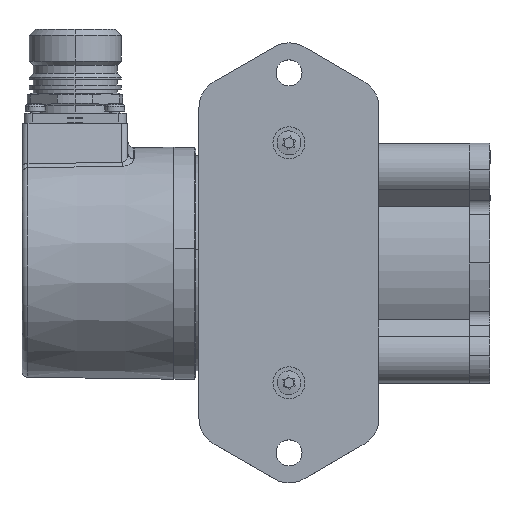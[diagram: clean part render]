
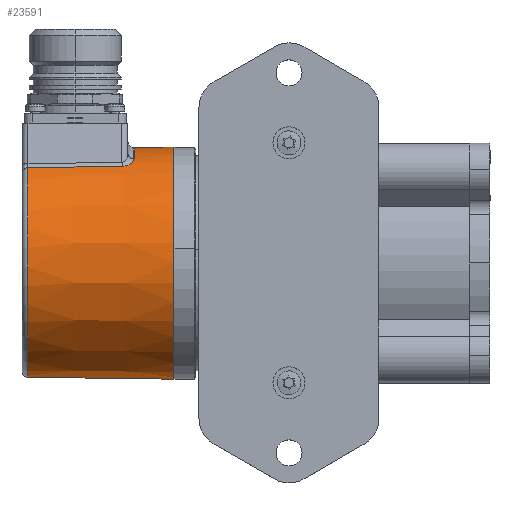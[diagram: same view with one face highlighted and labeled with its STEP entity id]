
A CAD part, top view. The second image highlights one B-rep face of the part: STEP entity #23591.
In plain terms, the highlighted conical face has half-angle 0.75 degrees and reference radius 29 mm.
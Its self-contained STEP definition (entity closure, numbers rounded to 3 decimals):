
#22619 = VERTEX_POINT ( 'NONE', #53542 ) ;
#22621 = EDGE_CURVE ( 'NONE', #22622, #22619, #53541, .T. ) ;
#22622 = VERTEX_POINT ( 'NONE', #53536 ) ;
#23029 = VERTEX_POINT ( 'NONE', #54929 ) ;
#23080 = EDGE_CURVE ( 'NONE', #23082, #23029, #55117, .T. ) ;
#23082 = VERTEX_POINT ( 'NONE', #55112 ) ;
#23154 = VERTEX_POINT ( 'NONE', #55377 ) ;
#23205 = EDGE_CURVE ( 'NONE', #22622, #23154, #55565, .T. ) ;
#23208 = VERTEX_POINT ( 'NONE', #55556 ) ;
#23211 = EDGE_CURVE ( 'NONE', #23029, #23208, #55555, .T. ) ;
#23532 = EDGE_CURVE ( 'NONE', #23208, #23154, #57659, .T. ) ;
#23591 = ADVANCED_FACE ( 'NONE', ( #58009 ), #57972, .T. ) ;
#23592 = EDGE_LOOP ( 'NONE', ( #23593, #23594, #23595, #23598, #23600, #23601, #23602 ) ) ;
#23593 = ORIENTED_EDGE ( 'NONE', *, *, #23205, .F. ) ;
#23594 = ORIENTED_EDGE ( 'NONE', *, *, #22621, .T. ) ;
#23595 = ORIENTED_EDGE ( 'NONE', *, *, #23596, .F. ) ;
#23596 = EDGE_CURVE ( 'NONE', #23597, #22619, #58073, .T. ) ;
#23597 = VERTEX_POINT ( 'NONE', #58072 ) ;
#23598 = ORIENTED_EDGE ( 'NONE', *, *, #23599, .T. ) ;
#23599 = EDGE_CURVE ( 'NONE', #23597, #23082, #58068, .T. ) ;
#23600 = ORIENTED_EDGE ( 'NONE', *, *, #23080, .T. ) ;
#23601 = ORIENTED_EDGE ( 'NONE', *, *, #23211, .T. ) ;
#23602 = ORIENTED_EDGE ( 'NONE', *, *, #23532, .T. ) ;
#53536 = CARTESIAN_POINT ( 'NONE',  ( -50.98, 28.869, 0. ) ) ;
#53537 = DIRECTION ( 'NONE',  ( 0., 1., 0. ) ) ;
#53538 = DIRECTION ( 'NONE',  ( 1., 0., 0. ) ) ;
#53539 = CARTESIAN_POINT ( 'NONE',  ( -50.98, 0., 0. ) ) ;
#53540 = AXIS2_PLACEMENT_3D ( 'NONE', #53539, #53538, #53537 ) ;
#53541 = CIRCLE ( 'NONE', #53540, 28.869 ) ;
#53542 = CARTESIAN_POINT ( 'NONE',  ( -50.98, 26.062, 12.419 ) ) ;
#54929 = CARTESIAN_POINT ( 'NONE',  ( -77.52, -28.522, 0. ) ) ;
#55112 = CARTESIAN_POINT ( 'NONE',  ( -77.52, 23.812, 15.699 ) ) ;
#55113 = DIRECTION ( 'NONE',  ( 0., 1., 0. ) ) ;
#55114 = DIRECTION ( 'NONE',  ( 1., 0., 0. ) ) ;
#55115 = CARTESIAN_POINT ( 'NONE',  ( -77.52, 0., 0. ) ) ;
#55116 = AXIS2_PLACEMENT_3D ( 'NONE', #55115, #55114, #55113 ) ;
#55117 = CIRCLE ( 'NONE', #55116, 28.522 ) ;
#55377 = CARTESIAN_POINT ( 'NONE',  ( -41., 29., 0. ) ) ;
#55555 = LINE ( 'NONE', #55607, #55606 ) ;
#55556 = CARTESIAN_POINT ( 'NONE',  ( -41., -29., 0. ) ) ;
#55562 = DIRECTION ( 'NONE',  ( 1., 0.013, 0. ) ) ;
#55563 = VECTOR ( 'NONE', #55562, 1000. ) ;
#55564 = CARTESIAN_POINT ( 'NONE',  ( -41., 29., 0. ) ) ;
#55565 = LINE ( 'NONE', #55564, #55563 ) ;
#55605 = DIRECTION ( 'NONE',  ( 1., -0.013, 0. ) ) ;
#55606 = VECTOR ( 'NONE', #55605, 1000. ) ;
#55607 = CARTESIAN_POINT ( 'NONE',  ( -41., -29., 0. ) ) ;
#57658 = AXIS2_PLACEMENT_3D ( 'NONE', #57773, #57770, #57768 ) ;
#57659 = CIRCLE ( 'NONE', #57658, 29. ) ;
#57768 = DIRECTION ( 'NONE',  ( 0., 1., 0. ) ) ;
#57770 = DIRECTION ( 'NONE',  ( -1., 0., 0. ) ) ;
#57773 = CARTESIAN_POINT ( 'NONE',  ( -41., 0., 0. ) ) ;
#57972 = CONICAL_SURFACE ( 'NONE', #58078, 29., 0.013 ) ;
#58009 = FACE_OUTER_BOUND ( 'NONE', #23592, .T. ) ;
#58026 = CARTESIAN_POINT ( 'NONE',  ( -55.98, 24.186, 15.643 ) ) ;
#58027 = CARTESIAN_POINT ( 'NONE',  ( -54.98, 24.203, 15.641 ) ) ;
#58028 = CARTESIAN_POINT ( 'NONE',  ( -53.98, 24.22, 15.638 ) ) ;
#58036 = CARTESIAN_POINT ( 'NONE',  ( -50.98, 26.062, 12.419 ) ) ;
#58038 = CARTESIAN_POINT ( 'NONE',  ( -50.98, 25.872, 12.818 ) ) ;
#58041 = CARTESIAN_POINT ( 'NONE',  ( -51.049, 25.677, 13.2 ) ) ;
#58043 = CARTESIAN_POINT ( 'NONE',  ( -51.25, 25.38, 13.753 ) ) ;
#58045 = CARTESIAN_POINT ( 'NONE',  ( -51.334, 25.281, 13.931 ) ) ;
#58047 = CARTESIAN_POINT ( 'NONE',  ( -51.529, 25.089, 14.269 ) ) ;
#58049 = CARTESIAN_POINT ( 'NONE',  ( -51.641, 24.995, 14.429 ) ) ;
#58051 = CARTESIAN_POINT ( 'NONE',  ( -51.899, 24.814, 14.732 ) ) ;
#58053 = CARTESIAN_POINT ( 'NONE',  ( -52.045, 24.726, 14.875 ) ) ;
#58055 = CARTESIAN_POINT ( 'NONE',  ( -52.364, 24.567, 15.129 ) ) ;
#58056 = CARTESIAN_POINT ( 'NONE',  ( -52.537, 24.494, 15.241 ) ) ;
#58057 = CARTESIAN_POINT ( 'NONE',  ( -52.917, 24.369, 15.432 ) ) ;
#58058 = CARTESIAN_POINT ( 'NONE',  ( -53.117, 24.318, 15.506 ) ) ;
#58060 = CARTESIAN_POINT ( 'NONE',  ( -53.538, 24.246, 15.61 ) ) ;
#58063 = CARTESIAN_POINT ( 'NONE',  ( -53.758, 24.224, 15.638 ) ) ;
#58065 = CARTESIAN_POINT ( 'NONE',  ( -53.98, 24.22, 15.638 ) ) ;
#58068 = B_SPLINE_CURVE_WITH_KNOTS ( 'NONE', 3,
 ( #58028, #58027, #58026, #58139, #58138, #58137, #58136, #58135, #58133, #58132 ),
 .UNSPECIFIED., .F., .F.,
 ( 4, 3, 3, 4 ),
 ( 0., 0.003, 0.015, 0.024 ),
 .UNSPECIFIED. ) ;
#58072 = CARTESIAN_POINT ( 'NONE',  ( -53.98, 24.22, 15.638 ) ) ;
#58073 = B_SPLINE_CURVE_WITH_KNOTS ( 'NONE', 3,
 ( #58065, #58063, #58060, #58058, #58057, #58056, #58055, #58053, #58051, #58049, #58047, #58045, #58043, #58041, #58038, #58036 ),
 .UNSPECIFIED., .F., .F.,
 ( 4, 2, 2, 2, 2, 2, 2, 4 ),
 ( 0., 0.001, 0.001, 0.002, 0.003, 0.003, 0.004, 0.005 ),
 .UNSPECIFIED. ) ;
#58075 = DIRECTION ( 'NONE',  ( 0., -1., 0. ) ) ;
#58076 = DIRECTION ( 'NONE',  ( 1., 0., 0. ) ) ;
#58077 = CARTESIAN_POINT ( 'NONE',  ( -41., 0., 0. ) ) ;
#58078 = AXIS2_PLACEMENT_3D ( 'NONE', #58077, #58076, #58075 ) ;
#58132 = CARTESIAN_POINT ( 'NONE',  ( -77.52, 23.812, 15.699 ) ) ;
#58133 = CARTESIAN_POINT ( 'NONE',  ( -74.672, 23.862, 15.692 ) ) ;
#58135 = CARTESIAN_POINT ( 'NONE',  ( -71.825, 23.911, 15.685 ) ) ;
#58136 = CARTESIAN_POINT ( 'NONE',  ( -68.978, 23.961, 15.677 ) ) ;
#58137 = CARTESIAN_POINT ( 'NONE',  ( -64.979, 24.03, 15.667 ) ) ;
#58138 = CARTESIAN_POINT ( 'NONE',  ( -60.979, 24.099, 15.656 ) ) ;
#58139 = CARTESIAN_POINT ( 'NONE',  ( -56.98, 24.168, 15.646 ) ) ;
